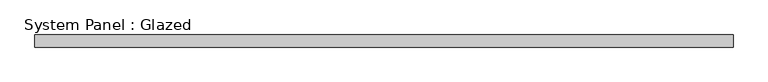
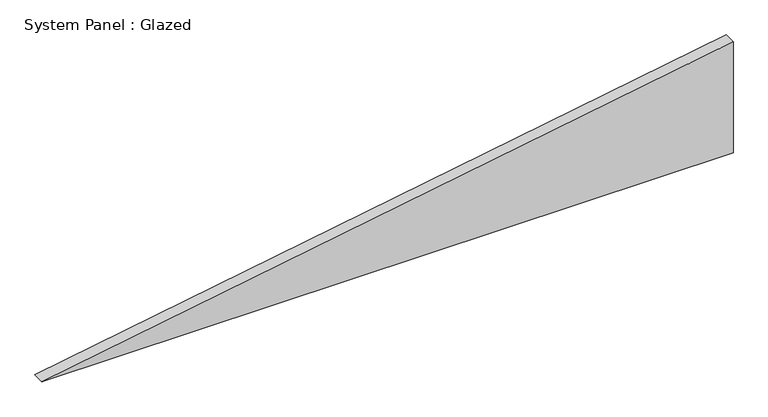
"""IFC4 building model written with IfcOpenShell, lengths in millimetres: plate geometry, System Panel : Glazed."""

from ifc_helpers import new_model, si_unit, frame, origin, place, context, project, spatial, polyline, outline, extrude, source, transform, mapped, element, save


def system_panel_glazed_e87ea906(model_context):
    return source(origin(), model_context, "Body", "SweptSolid", [
        extrude(outline(polyline([(0.0, -732.3803934), (0.0, 732.3803934), (248.9286847, 732.3803934), (0.0, -732.3803934)])), frame((0.0, 19.05, 0.0), z_axis=(0.0, 1.0, 0.0), x_axis=(0.0, 0.0, 1.0)), (0.0, 0.0, 1.0), 25.4),
    ])


if __name__ == "__main__":
    model = new_model("IFC4")
    model_context = context("Model", 3, world=origin())
    ifc_project = project(units=[si_unit("LENGTHUNIT", "METRE", prefix="MILLI")], contexts=[model_context])
    site = spatial("IfcSite", under=ifc_project)
    building = spatial("IfcBuilding", under=site)
    placement = place(None, origin())
    system_panel_glazed_shape = system_panel_glazed_e87ea906(model_context)
    element("IfcPlate", 1, ObjectType="System Panel : Glazed", at=placement, inside=building, context=model_context, shape_type="MappedRepresentation", body=[
        mapped(system_panel_glazed_shape, transform((0.0, 0.0, 0.0), x_axis=(1.0, 0.0, 0.0), y_axis=(0.0, 1.0, 0.0), z_axis=(0.0, 0.0, 1.0))),
    ])
    save(model, "model.ifc")
